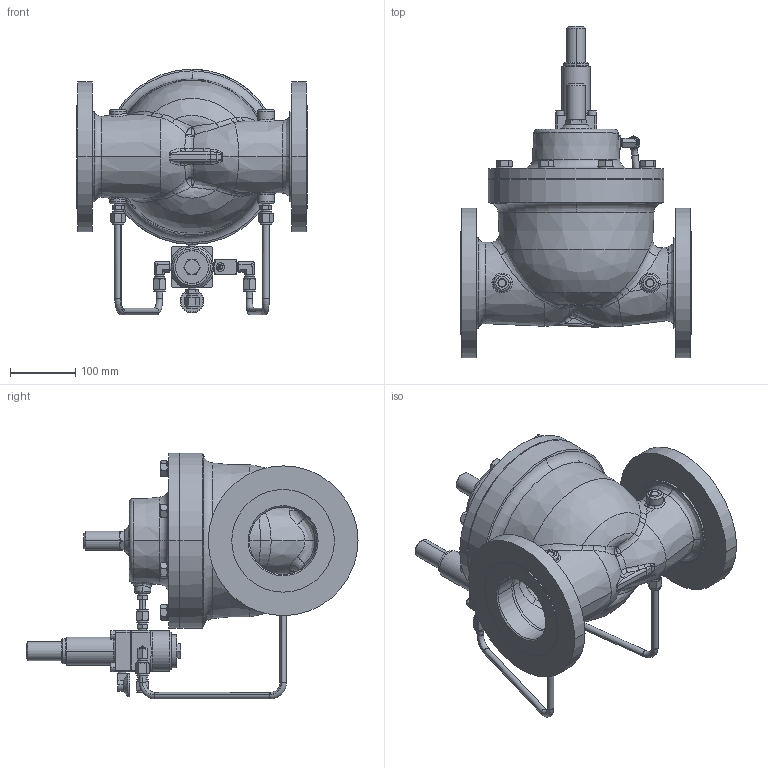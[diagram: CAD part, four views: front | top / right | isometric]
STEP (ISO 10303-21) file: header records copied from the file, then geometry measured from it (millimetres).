
FILE_DESCRIPTION((''),'2;1');
FILE_NAME('ASM000150_SW0001','2019-10-30T',('jjunior'),(''),'PRO/ENGINEER BY PARAMETRIC TECHNOLOGY CORPORATION, 2010160','PRO/ENGINEER BY PARAMETRIC TECHNOLOGY CORPORATION, 2010160','');
FILE_SCHEMA(('CONFIG_CONTROL_DESIGN'));
Products named in the file (1): ASM000150_SW0001
Bounding box: 353 x 507.6 x 375.7 mm (x, y, z)
Volume: 6337458.4 mm3; surface area: 1019486.2 mm2
Topology: 1 solids, 11 shells, 1611 faces, 3871 edges, 2412 vertices
Faces by surface type: cylinder 465, plane 430, cone 411, bspline 166, torus 131, revolution 4, sphere 4
Entity records: 69189 total; most frequent: CARTESIAN_POINT 32838, ORIENTED_EDGE 7706, DIRECTION 7431, EDGE_CURVE 3853, AXIS2_PLACEMENT_3D 3133, VERTEX_POINT 2412, EDGE_LOOP 1813, CIRCLE 1692
